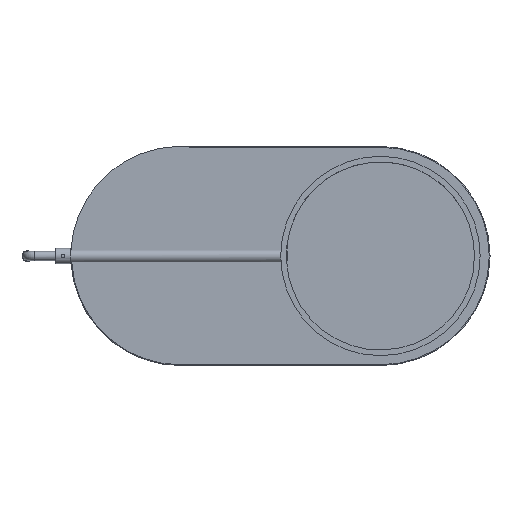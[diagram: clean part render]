
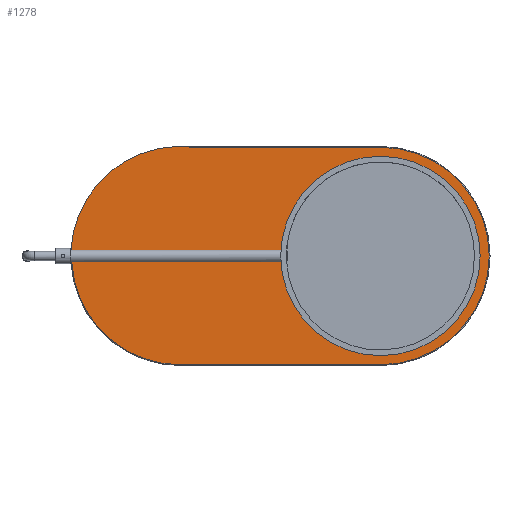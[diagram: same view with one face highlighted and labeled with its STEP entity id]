
A CAD part, top view. The second image highlights one B-rep face of the part: STEP entity #1278.
In plain terms, the highlighted planar face has unit normal (0, 0, 1).
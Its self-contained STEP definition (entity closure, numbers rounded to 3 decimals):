
#399=CARTESIAN_POINT('',(0.0,-144.0,3.));
#400=VERTEX_POINT('',#399);
#408=CARTESIAN_POINT('',(-265.,-144.0,3.));
#409=VERTEX_POINT('',#408);
#410=CARTESIAN_POINT('',(0.0,-144.0,3.));
#411=DIRECTION('',(-1.0,0.0,0.0));
#412=VECTOR('',#411,265.);
#413=LINE('',#410,#412);
#414=EDGE_CURVE('',#400,#409,#413,.T.);
#440=CARTESIAN_POINT('',(0.,144.0,3.));
#441=VERTEX_POINT('',#440);
#449=CARTESIAN_POINT('',(0.0,0.0,3.));
#450=DIRECTION('',(0.0,0.0,-1.0));
#451=DIRECTION('',(1.0,0.0,0.0));
#452=AXIS2_PLACEMENT_3D('',#449,#450,#451);
#453=CIRCLE('',#452,144.0);
#454=EDGE_CURVE('',#441,#400,#453,.T.);
#466=CARTESIAN_POINT('',(-408.67,-7.685,3.));
#467=VERTEX_POINT('',#466);
#468=CARTESIAN_POINT('',(-264.866,0.01,3.));
#469=DIRECTION('',(0.0,0.0,-1.0));
#470=DIRECTION('',(-0.688,-0.725,0.0));
#471=AXIS2_PLACEMENT_3D('',#468,#469,#470);
#472=CIRCLE('',#471,144.01);
#473=EDGE_CURVE('',#409,#467,#472,.T.);
#500=CARTESIAN_POINT('',(-247.697,144.0,3.));
#501=VERTEX_POINT('',#500);
#531=CARTESIAN_POINT('',(-247.697,144.0,3.));
#532=DIRECTION('',(1.0,0.0,0.0));
#533=VECTOR('',#532,247.697);
#534=LINE('',#531,#533);
#535=EDGE_CURVE('',#501,#441,#534,.T.);
#1200=CARTESIAN_POINT('',(-125.765,-7.685,3.));
#1201=VERTEX_POINT('',#1200);
#1202=CARTESIAN_POINT('',(-125.765,-7.685,3.));
#1203=DIRECTION('',(-1.0,0.0,0.0));
#1204=VECTOR('',#1203,282.905);
#1205=LINE('',#1202,#1204);
#1206=EDGE_CURVE('',#1201,#467,#1205,.T.);
#1208=CARTESIAN_POINT('',(-125.765,7.685,3.));
#1209=VERTEX_POINT('',#1208);
#1231=CARTESIAN_POINT('',(-409.673,7.685,3.0));
#1232=VERTEX_POINT('',#1231);
#1233=CARTESIAN_POINT('',(-409.673,7.685,3.));
#1234=DIRECTION('',(1.0,0.0,0.0));
#1235=VECTOR('',#1234,283.907);
#1236=LINE('',#1233,#1235);
#1237=EDGE_CURVE('',#1232,#1209,#1236,.T.);
#1251=CARTESIAN_POINT('',(-132.405,-0.022,3.));
#1252=DIRECTION('',(0.0,0.0,1.0));
#1253=DIRECTION('',(1.0,0.0,0.0));
#1254=AXIS2_PLACEMENT_3D('',#1251,#1252,#1253);
#1255=PLANE('',#1254);
#1256=CARTESIAN_POINT('',(-264.866,0.01,3.));
#1257=DIRECTION('',(0.0,0.0,-1.));
#1258=DIRECTION('',(-0.017,-1.,0.0));
#1259=AXIS2_PLACEMENT_3D('',#1256,#1257,#1258);
#1260=CIRCLE('',#1259,145.01);
#1261=EDGE_CURVE('',#1232,#501,#1260,.T.);
#1262=ORIENTED_EDGE('',*,*,#1261,.F.);
#1263=ORIENTED_EDGE('',*,*,#1237,.T.);
#1264=CARTESIAN_POINT('',(0.0,0.0,3.));
#1265=DIRECTION('',(0.0,0.0,1.0));
#1266=DIRECTION('',(-1.0,0.0,0.0));
#1267=AXIS2_PLACEMENT_3D('',#1264,#1265,#1266);
#1268=CIRCLE('',#1267,126.);
#1269=EDGE_CURVE('',#1201,#1209,#1268,.T.);
#1270=ORIENTED_EDGE('',*,*,#1269,.F.);
#1271=ORIENTED_EDGE('',*,*,#1206,.T.);
#1272=ORIENTED_EDGE('',*,*,#473,.F.);
#1273=ORIENTED_EDGE('',*,*,#414,.F.);
#1274=ORIENTED_EDGE('',*,*,#454,.F.);
#1275=ORIENTED_EDGE('',*,*,#535,.F.);
#1276=EDGE_LOOP('',(#1262,#1263,#1270,#1271,#1272,#1273,#1274,#1275));
#1277=FACE_OUTER_BOUND('',#1276,.T.);
#1278=ADVANCED_FACE('',(#1277),#1255,.T.);
